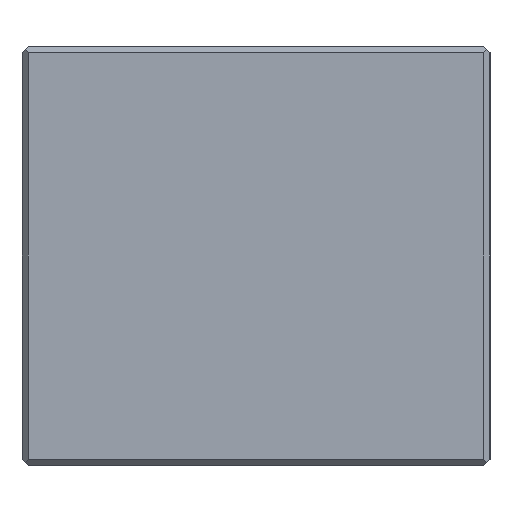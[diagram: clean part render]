
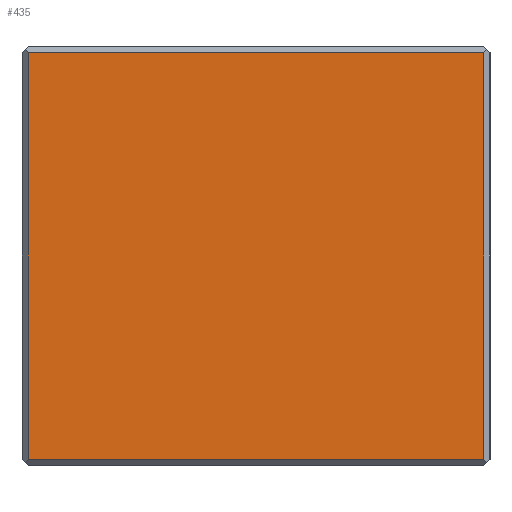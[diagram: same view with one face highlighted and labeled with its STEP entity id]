
A CAD part, left-side view. The second image highlights one B-rep face of the part: STEP entity #435.
In plain terms, the highlighted planar face has unit normal (-1, 0, 0).
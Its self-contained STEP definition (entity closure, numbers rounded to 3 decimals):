
#108=ORIENTED_EDGE('',*,*,#152,.T.);
#109=ORIENTED_EDGE('',*,*,#183,.F.);
#110=ORIENTED_EDGE('',*,*,#195,.F.);
#111=ORIENTED_EDGE('',*,*,#164,.T.);
#152=EDGE_CURVE('',#204,#207,#248,.T.);
#164=EDGE_CURVE('',#217,#204,#260,.T.);
#183=EDGE_CURVE('',#231,#207,#275,.T.);
#195=EDGE_CURVE('',#217,#231,#283,.T.);
#204=VERTEX_POINT('',#609);
#207=VERTEX_POINT('',#615);
#217=VERTEX_POINT('',#641);
#231=VERTEX_POINT('',#676);
#248=LINE('',#616,#296);
#260=LINE('',#640,#308);
#275=LINE('',#677,#323);
#283=LINE('',#700,#331);
#296=VECTOR('',#501,1000.);
#308=VECTOR('',#519,1000.);
#323=VECTOR('',#548,1000.);
#331=VECTOR('',#570,1000.);
#357=EDGE_LOOP('',(#108,#109,#110,#111));
#391=FACE_BOUND('',#357,.T.);
#417=PLANE('',#478);
#435=ADVANCED_FACE('',(#391),#417,.F.);
#478=AXIS2_PLACEMENT_3D('',#707,#579,#580);
#501=DIRECTION('',(0.,-1.,0.));
#519=DIRECTION('',(0.,0.,-1.));
#548=DIRECTION('',(0.,0.,-1.));
#570=DIRECTION('',(0.,-1.,0.));
#579=DIRECTION('',(1.,0.,0.));
#580=DIRECTION('',(0.,0.,-1.));
#609=CARTESIAN_POINT('',(-123.,75.,-33.));
#615=CARTESIAN_POINT('',(-123.,1.,-33.));
#616=CARTESIAN_POINT('',(-123.,76.,-33.));
#640=CARTESIAN_POINT('',(-123.,75.,34.));
#641=CARTESIAN_POINT('',(-123.,75.,33.));
#676=CARTESIAN_POINT('',(-123.,1.,33.));
#677=CARTESIAN_POINT('',(-123.,1.,34.));
#700=CARTESIAN_POINT('',(-123.,76.,33.));
#707=CARTESIAN_POINT('',(-123.,75.,34.));
